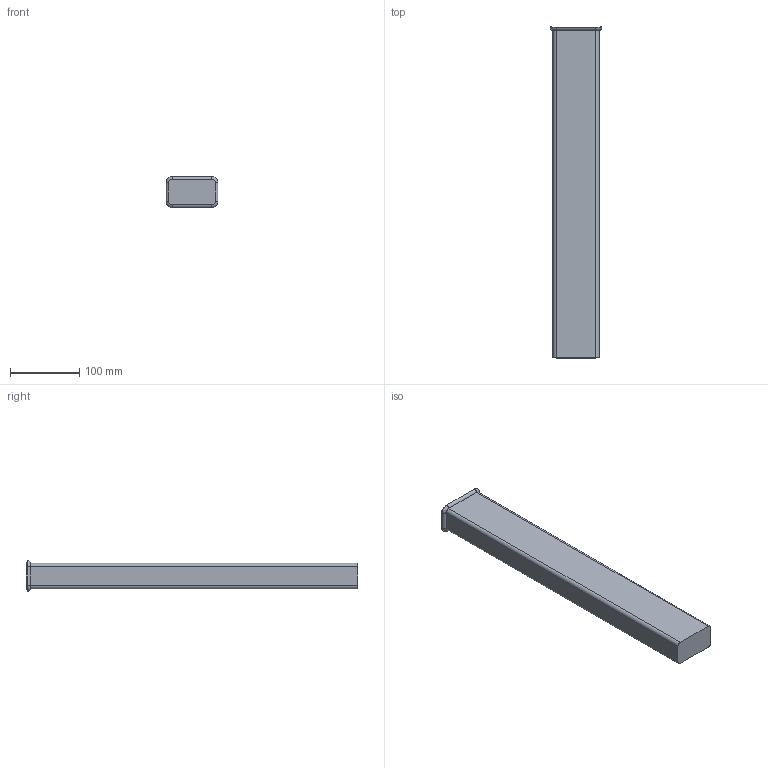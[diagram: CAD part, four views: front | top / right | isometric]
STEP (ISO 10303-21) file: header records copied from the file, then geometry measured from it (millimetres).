
FILE_DESCRIPTION((''),'2;1');
FILE_NAME('1041W7906-A-06-1_AF4','2019-12-13T13:47:27',('mbes'),(''),'CREO PARAMETRIC BY PTC INC, 2018400','CREO PARAMETRIC BY PTC INC, 2018400','');
FILE_SCHEMA(('AUTOMOTIVE_DESIGN { 1 0 10303 214 1 1 1 1 }'));
Length unit declared in the file: millimetre
Products named in the file (1): 1041W7906-A-06-1_AF4
Bounding box: 75 x 479.03 x 45 mm (x, y, z)
Volume: 1175081.2 mm3; surface area: 101628.1 mm2
Topology: 1 solids, 1 shells, 26 faces, 56 edges, 32 vertices
Faces by surface type: cylinder 14, plane 8, torus 4
Entity records: 1202 total; most frequent: CARTESIAN_POINT 206, DIRECTION 182, ORIENTED_EDGE 112, VECTOR 66, LINE 66, COLOUR_RGB 63, AXIS2_PLACEMENT_3D 58, EDGE_CURVE 56
